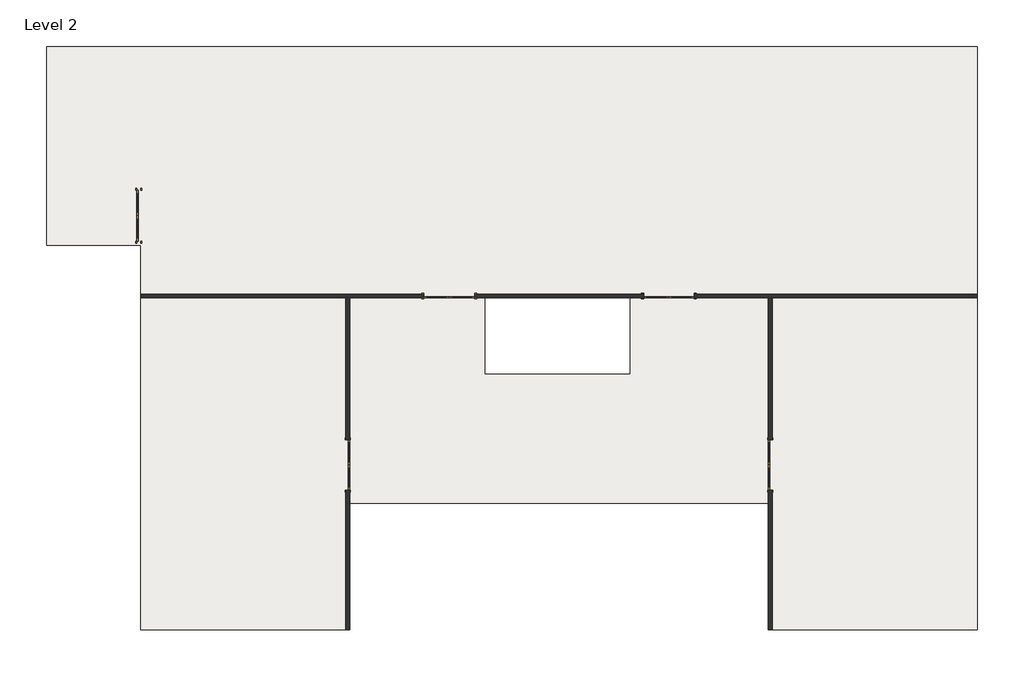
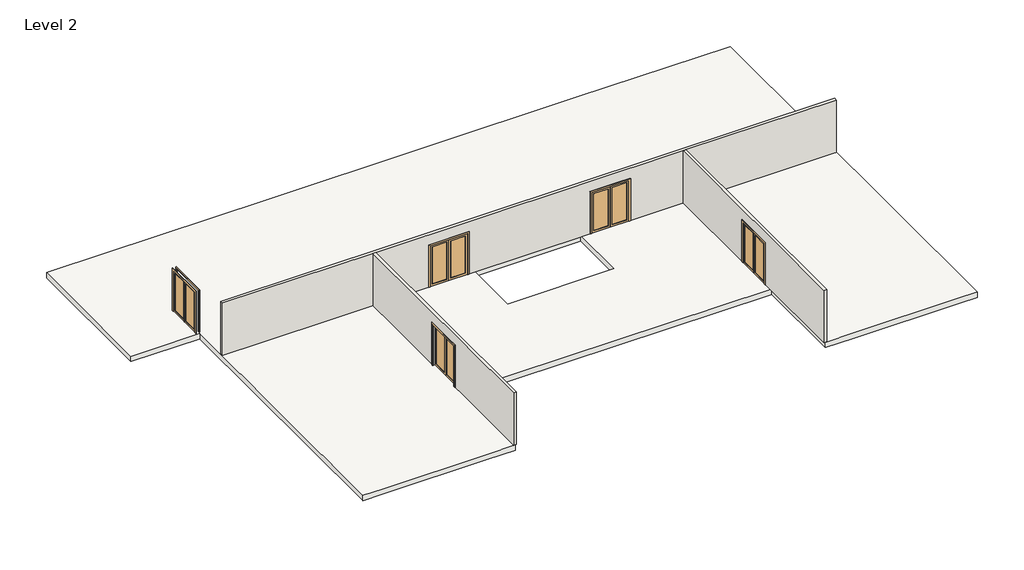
# One storey: 5 doors, 3 walls, 1 slab.
"""IFC4 building model written with IfcOpenShell, lengths in millimetres."""

from ifc_helpers import new_model, si_unit, origin, place, context, project, spatial, faceted_brep, transform, mapped, element, save
from components import door_cb31edf2, door_3f2f997e

model = new_model("IFC4")

# Units and contexts
model_context = context("Model", 3, world=origin())
ifc_project = project(units=[si_unit("LENGTHUNIT", "METRE", prefix="MILLI")], contexts=[model_context])

# Site, building, storey
site = spatial("IfcSite", under=ifc_project)
building = spatial("IfcBuilding", under=site)
storey = spatial("IfcBuildingStorey", under=building, Name="Level 2", Elevation=3048.0)

# Doors
placement = place(None, origin())
door_shape = door_cb31edf2(model_context)
element("IfcDoor", 1, ObjectType="Door-Double-Glass : 72\" x 84\"", at=placement, inside=storey, context=model_context, shape_type="MappedRepresentation", body=[
    mapped(door_shape, transform((-18248.748632, 9505.1983604, 3048.0), x_axis=(0.0, 1.0, 0.0), y_axis=(-1.0, 0.0, 0.0), z_axis=(0.0, 0.0, 1.0))),
])
door_2_shape = door_3f2f997e(model_context)
element("IfcDoor", 2, ObjectType="Door-Double-Glass : 72\" x 84\"", at=placement, inside=storey, context=model_context, shape_type="MappedRepresentation", body=[
    mapped(door_2_shape, transform((-10711.298632, 513.5983604, 3048.0), x_axis=(0.0, -1.0, 0.0), y_axis=(1.0, 0.0, 0.0), z_axis=(0.0, 0.0, 1.0))),
])
element("IfcDoor", 3, ObjectType="Door-Double-Glass : 72\" x 84\"", at=placement, inside=storey, context=model_context, shape_type="MappedRepresentation", body=[
    mapped(door_2_shape, transform((4533.463868, 513.5983604, 3048.0), x_axis=(0.0, 1.0, 0.0), y_axis=(-1.0, 0.0, 0.0), z_axis=(0.0, 0.0, 1.0))),
])
element("IfcDoor", 4, ObjectType="Door-Double-Glass : 72\" x 84\"", at=placement, inside=storey, context=model_context, shape_type="MappedRepresentation", body=[
    mapped(door_2_shape, transform((-7051.317382, 6611.9796104, 3048.0), x_axis=(-1.0, 0.0, 0.0), y_axis=(0.0, -1.0, 0.0), z_axis=(0.0, 0.0, 1.0))),
])
element("IfcDoor", 5, ObjectType="Door-Double-Glass : 72\" x 84\"", at=placement, inside=storey, context=model_context, shape_type="MappedRepresentation", body=[
    mapped(door_2_shape, transform((873.482618, 6611.9796104, 3048.0), x_axis=(-1.0, 0.0, 0.0), y_axis=(0.0, -1.0, 0.0), z_axis=(0.0, 0.0, 1.0))),
])

# Slab
element("IfcSlab", 6, ObjectType="Wood Joist 10\" - Ceramic Tile", at=placement, inside=storey, context=model_context, shape_type="Brep", body=[
    faceted_brep([(12008.207618, 15610.7233604, 2774.95), (12008.207618, 15598.0233604, 2774.95), (12008.207618, -5439.5266396, 2774.95), (11995.507618, -5439.5266396, 2774.95), (11084.282618, -5439.5266396, 2774.95), (5902.682618, -5439.5266396, 2774.95), (4531.082618, -5439.5266396, 2774.95), (4531.082618, -5426.8266396, 2774.95), (4531.082618, -867.5266396, 2774.95), (-10708.917382, -867.5266396, 2774.95), (-10708.917382, -5426.8266396, 2774.95), (-10708.917382, -5439.5266396, 2774.95), (-12080.517382, -5439.5266396, 2774.95), (-17262.117382, -5439.5266396, 2774.95), (-18186.042382, -5439.5266396, 2774.95), (-18186.042382, -5426.8266396, 2774.95), (-18186.042382, 8438.3983604, 2774.95), (-21580.117382, 8438.3983604, 2774.95), (-21580.117382, 15610.7233604, 2774.95), (-21424.542382, 15610.7233604, 2774.95), (-10708.917382, 15610.7233604, 2774.95), (4531.082618, 15610.7233604, 2774.95), (-5743.217382, 3796.5483604, 2774.95), (-536.217382, 3796.5483604, 2774.95), (-536.217382, 6609.5983604, 2774.95), (-5743.217382, 6609.5983604, 2774.95), (12008.207618, -5439.5266396, 3048.0), (12008.207618, 15598.0233604, 3048.0), (12008.207618, 15610.7233604, 3048.0), (4531.082618, 15610.7233604, 3048.0), (-10708.917382, 15610.7233604, 3048.0), (-21424.542382, 15610.7233604, 3048.0), (-21580.117382, 15610.7233604, 3048.0), (-21580.117382, 8438.3983604, 3048.0), (-18186.042382, 8438.3983604, 3048.0), (-18186.042382, -5426.8266396, 3048.0), (-18186.042382, -5439.5266396, 3048.0), (-17262.117382, -5439.5266396, 3048.0), (-12080.517382, -5439.5266396, 3048.0), (-10708.917382, -5439.5266396, 3048.0), (-10708.917382, -5426.8266396, 3048.0), (-10708.917382, -867.5266396, 3048.0), (4531.082618, -867.5266396, 3048.0), (4531.082618, -5426.8266396, 3048.0), (4531.082618, -5439.5266396, 3048.0), (5902.682618, -5439.5266396, 3048.0), (11084.282618, -5439.5266396, 3048.0), (11995.507618, -5439.5266396, 3048.0), (-536.217382, 3796.5483604, 3048.0), (-5743.217382, 3796.5483604, 3048.0), (-5743.217382, 6609.5983604, 3048.0), (-536.217382, 6609.5983604, 3048.0)], [[[0, 1, 2, 3, 4, 5, 6, 7, 8, 9, 10, 11, 12, 13, 14, 15, 16, 17, 18, 19, 20, 21], [22, 23, 24, 25]], [[26, 27, 28, 29, 30, 31, 32, 33, 34, 35, 36, 37, 38, 39, 40, 41, 42, 43, 44, 45, 46, 47], [48, 49, 50, 51]], [[2, 1, 0, 28, 27, 26]], [[6, 5, 4, 3, 2, 26, 47, 46, 45, 44]], [[14, 13, 12, 11, 39, 38, 37, 36]], [[16, 15, 14, 36, 35, 34]], [[17, 16, 34, 33]], [[18, 17, 33, 32]], [[0, 21, 20, 19, 18, 32, 31, 30, 29, 28]], [[8, 7, 6, 44, 43, 42]], [[9, 8, 42, 41]], [[11, 10, 9, 41, 40, 39]], [[22, 49, 48, 23]], [[23, 48, 51, 24]], [[24, 51, 50, 25]], [[49, 22, 25, 50]]]),
])

# Walls
element("IfcWall", 7, ObjectType="Interior - 5 1/2\" Partition (1-hr)", at=placement, inside=storey, context=model_context, shape_type="Brep", body=[
    faceted_brep([(-6136.917382, 6539.7483604, 3048.0), (-40.917382, 6539.7483604, 3048.0), (-40.917382, 6539.7483604, 5181.6), (1787.882618, 6539.7483604, 5181.6), (1787.882618, 6539.7483604, 3048.0), (4461.232618, 6539.7483604, 3048.0), (4600.932618, 6539.7483604, 3048.0), (11995.507618, 6539.7483604, 3048.0), (11995.507618, 6539.7483604, 5772.15), (4600.932618, 6539.7483604, 5772.15), (4461.232618, 6539.7483604, 5772.15), (-10639.067382, 6539.7483604, 5772.15), (-10778.767382, 6539.7483604, 5772.15), (-18173.342382, 6539.7483604, 5772.15), (-18173.342382, 6539.7483604, 3048.0), (-10778.767382, 6539.7483604, 3048.0), (-10639.067382, 6539.7483604, 3048.0), (-7965.717382, 6539.7483604, 3048.0), (-7965.717382, 6539.7483604, 5181.6), (-6136.917382, 6539.7483604, 5181.6), (-40.917382, 6679.4483604, 5181.6), (-40.917382, 6679.4483604, 3048.0), (-6136.917382, 6679.4483604, 3048.0), (-6136.917382, 6679.4483604, 5181.6), (-7965.717382, 6679.4483604, 5181.6), (-7965.717382, 6679.4483604, 3048.0), (-18173.342382, 6679.4483604, 3048.0), (-18173.342382, 6679.4483604, 5772.15), (11995.507618, 6679.4483604, 5772.15), (11995.507618, 6679.4483604, 3048.0), (1787.882618, 6679.4483604, 3048.0), (1787.882618, 6679.4483604, 5181.6)], [[[0, 1, 2, 3, 4, 5, 6, 7, 8, 9, 10, 11, 12, 13, 14, 15, 16, 17, 18, 19]], [[20, 21, 22, 23, 24, 25, 26, 27, 28, 29, 30, 31]], [[22, 21, 1, 0]], [[26, 25, 17, 16, 15, 14]], [[30, 29, 7, 6, 5, 4]], [[13, 12, 11, 10, 9, 8, 28, 27]], [[8, 7, 29, 28]], [[14, 13, 27, 26]], [[2, 1, 21, 20]], [[3, 2, 20, 31]], [[4, 3, 31, 30]], [[18, 17, 25, 24]], [[19, 18, 24, 23]], [[0, 19, 23, 22]]]),
])
element("IfcWall", 8, ObjectType="Interior - 5 1/2\" Partition (1-hr)", at=placement, inside=storey, context=model_context, shape_type="Brep", body=[
    faceted_brep([(4461.232618, 6539.7483604, 3048.0), (4461.232618, 1427.9983604, 3048.0), (4461.232618, 1427.9983604, 5181.6), (4461.232618, -400.8016396, 5181.6), (4461.232618, -400.8016396, 3048.0), (4461.232618, -5426.8266396, 3048.0), (4461.232618, -5426.8266396, 5772.15), (4461.232618, 6539.7483604, 5772.15), (4600.932618, 1427.9983604, 5181.6), (4600.932618, 1427.9983604, 3048.0), (4600.932618, 6539.7483604, 3048.0), (4600.932618, 6539.7483604, 5772.15), (4600.932618, -5426.8266396, 5772.15), (4600.932618, -5426.8266396, 3048.0), (4600.932618, -400.8016396, 3048.0), (4600.932618, -400.8016396, 5181.6), (4531.082618, -5426.8266396, 3048.0)], [[[0, 1, 2, 3, 4, 5, 6, 7]], [[8, 9, 10, 11, 12, 13, 14, 15]], [[10, 9, 1, 0]], [[14, 13, 16, 5, 4]], [[0, 7, 11, 10]], [[6, 5, 16, 13, 12]], [[7, 6, 12, 11]], [[2, 1, 9, 8]], [[3, 2, 8, 15]], [[4, 3, 15, 14]]]),
])
element("IfcWall", 9, ObjectType="Interior - 5 1/2\" Partition (1-hr)", at=placement, inside=storey, context=model_context, shape_type="Brep", body=[
    faceted_brep([(-10778.767382, -400.8016396, 5181.6), (-10778.767382, -400.8016396, 3048.0), (-10778.767382, -5426.8266396, 3048.0), (-10778.767382, -5426.8266396, 5772.15), (-10778.767382, 6539.7483604, 5772.15), (-10778.767382, 6539.7483604, 3048.0), (-10778.767382, 1427.9983604, 3048.0), (-10778.767382, 1427.9983604, 5181.6), (-10639.067382, -5426.8266396, 3048.0), (-10639.067382, -400.8016396, 3048.0), (-10639.067382, -400.8016396, 5181.6), (-10639.067382, 1427.9983604, 5181.6), (-10639.067382, 1427.9983604, 3048.0), (-10639.067382, 6539.7483604, 3048.0), (-10639.067382, 6539.7483604, 5772.15), (-10639.067382, -5426.8266396, 5772.15), (-10708.917382, -5426.8266396, 3048.0)], [[[0, 1, 2, 3, 4, 5, 6, 7]], [[8, 9, 10, 11, 12, 13, 14, 15]], [[2, 1, 9, 8, 16]], [[6, 5, 13, 12]], [[5, 4, 14, 13]], [[3, 2, 16, 8, 15]], [[4, 3, 15, 14]], [[10, 9, 1, 0]], [[11, 10, 0, 7]], [[12, 11, 7, 6]]]),
])

save(model, "model.ifc")
